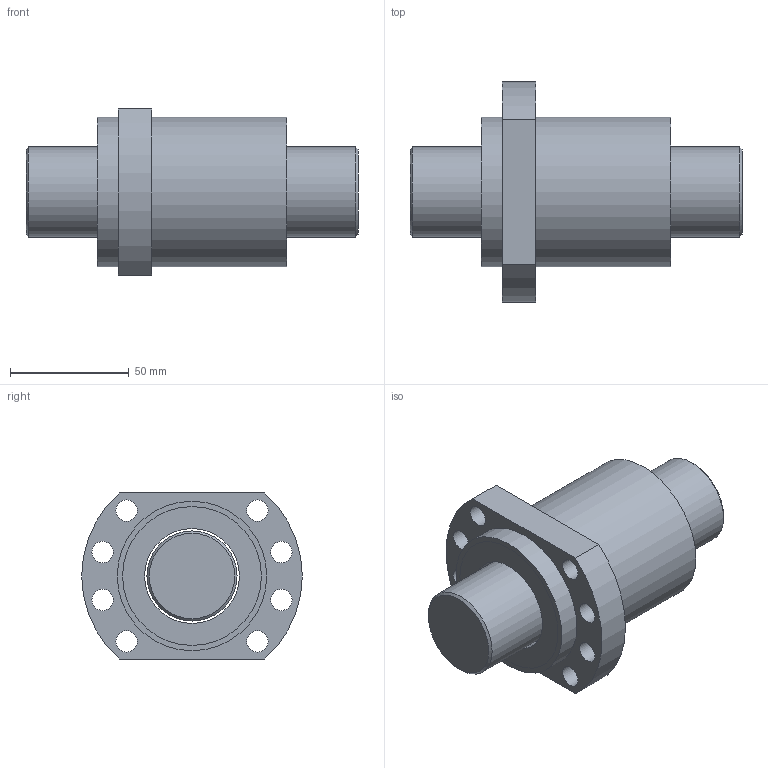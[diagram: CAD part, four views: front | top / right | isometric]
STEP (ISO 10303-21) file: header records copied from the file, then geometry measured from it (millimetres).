
FILE_DESCRIPTION(/* description */ (''),/* implementation_level */ '2;1');
FILE_NAME(/* name */ 'SFH4020.stp',/* time_stamp */ '2015-11-23T08:48:52+08:00',/* author */ (''),/* organization */ (''),/* preprocessor_version */ 'ST-DEVELOPER v11',/* originating_system */ 'SIEMENS UGS NX 6.0',/* authorisation */ '');
FILE_SCHEMA (('CONFIG_CONTROL_DESIGN'));
Length unit declared in the file: millimetre
Products named in the file (1): fann7DDE8qu4
Bounding box: 140 x 93 x 70 mm (x, y, z)
Volume: 338334 mm3; surface area: 69092.1 mm2
Topology: 4 solids, 4 shells, 52 faces, 96 edges, 64 vertices
Faces by surface type: cylinder 28, plane 22, cone 2
Full cylindrical faces by diameter (mm): 9 x8, 38 x1, 40 x3, 55 x4, 58.5 x4, 60 x4, 63 x2
Entity records: 1284 total; most frequent: DIRECTION 230, CARTESIAN_POINT 181, ORIENTED_EDGE 132, EDGE_LOOP 114, AXIS2_PLACEMENT_3D 111, FACE_BOUND 108, EDGE_CURVE 66, VERTEX_POINT 62
